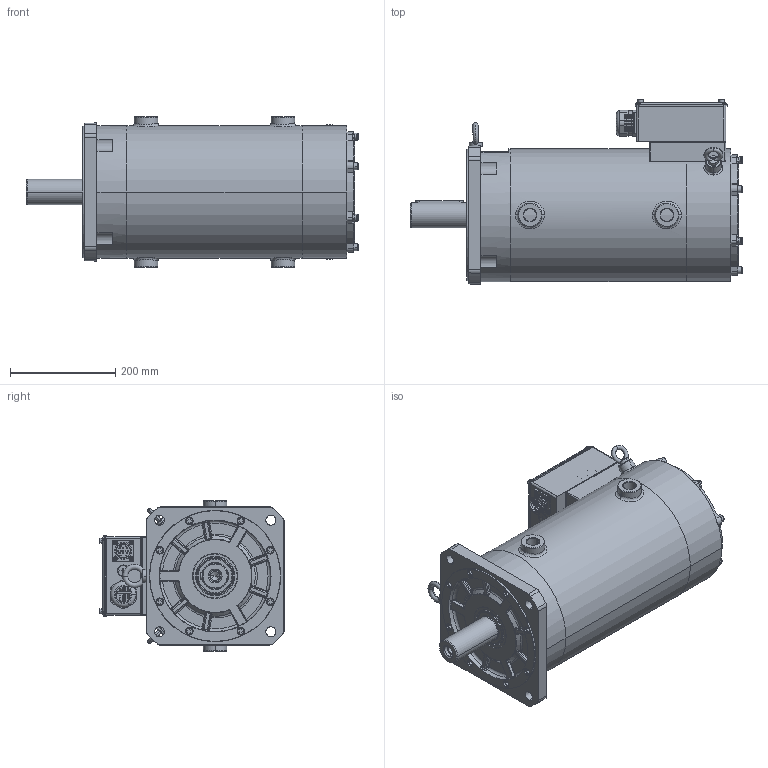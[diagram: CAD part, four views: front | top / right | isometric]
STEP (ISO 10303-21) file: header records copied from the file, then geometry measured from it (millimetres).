
FILE_DESCRIPTION((''),'2;1');
FILE_NAME('MOTOR-280____SW0001','2026-02-12T16:31:44',('01002423'),(''),'CREO PARAMETRIC BY PTC INC, 2019080','CREO PARAMETRIC BY PTC INC, 2019080','');
FILE_SCHEMA(('CONFIG_CONTROL_DESIGN'));
Length unit declared in the file: millimetre
Products named in the file (1): MOTOR-280____SW0001
Bounding box: 632 x 350.99 x 287 mm (x, y, z)
Surface area: 2118510.8 mm2 (no closed solid volume)
Topology: 0 solids, 112 shells, 1968 faces, 6625 edges, 4752 vertices
Faces by surface type: plane 710, cylinder 571, bspline 340, cone 171, torus 152, sphere 24
Entity records: 105670 total; most frequent: CARTESIAN_POINT 50143, DIRECTION 11154, ORIENTED_EDGE 10894, EDGE_CURVE 6585, VERTEX_POINT 4752, AXIS2_PLACEMENT_3D 3894, VECTOR 3366, LINE 3366
